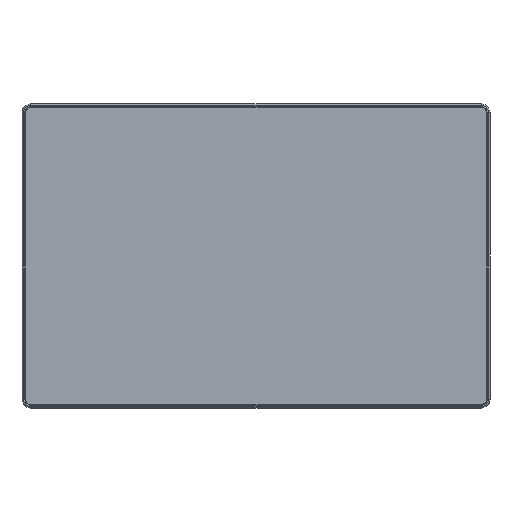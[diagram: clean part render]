
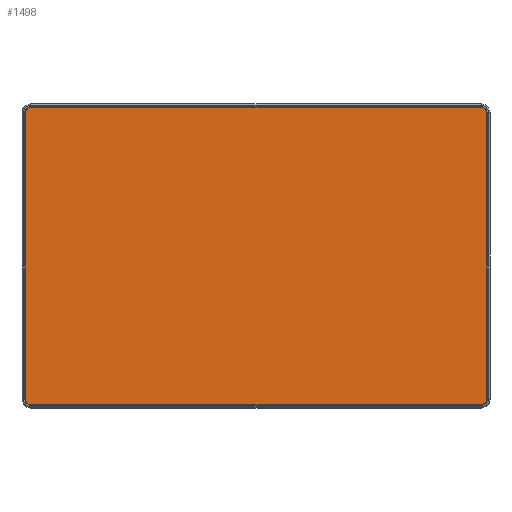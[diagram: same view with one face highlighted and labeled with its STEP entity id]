
A CAD part, top view. The second image highlights one B-rep face of the part: STEP entity #1498.
In plain terms, the highlighted planar face has unit normal (0, 0, 1).
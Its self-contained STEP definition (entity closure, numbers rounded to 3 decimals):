
#1498=ADVANCED_FACE('',(#2761),#20518,.T.);
#2761=FACE_OUTER_BOUND('',#4118,.T.);
#4118=EDGE_LOOP('',(#10608,#10609,#10610,#10611,#10612,#10613,#10614,#10615));
#10608=ORIENTED_EDGE('',*,*,#13880,.F.);
#10609=ORIENTED_EDGE('',*,*,#13877,.F.);
#10610=ORIENTED_EDGE('',*,*,#13874,.F.);
#10611=ORIENTED_EDGE('',*,*,#13871,.F.);
#10612=ORIENTED_EDGE('',*,*,#13868,.F.);
#10613=ORIENTED_EDGE('',*,*,#13865,.F.);
#10614=ORIENTED_EDGE('',*,*,#13862,.F.);
#10615=ORIENTED_EDGE('',*,*,#13858,.F.);
#13858=EDGE_CURVE('',#19241,#19242,#17116,.T.);
#13862=EDGE_CURVE('',#19242,#19245,#17120,.T.);
#13865=EDGE_CURVE('',#19245,#19247,#17123,.T.);
#13868=EDGE_CURVE('',#19247,#19249,#17126,.T.);
#13871=EDGE_CURVE('',#19249,#19251,#17129,.T.);
#13874=EDGE_CURVE('',#19251,#19253,#17132,.T.);
#13877=EDGE_CURVE('',#19253,#19255,#17135,.T.);
#13880=EDGE_CURVE('',#19255,#19241,#17138,.T.);
#17116=B_SPLINE_CURVE_WITH_KNOTS('',3,(#43110,#43111,#43112,#43113,#43114,
#43115,#43116),.UNSPECIFIED.,.F.,.F.,(4,3,4),(-1.,-0.846,-0.769),
 .UNSPECIFIED.);
#17120=B_SPLINE_CURVE_WITH_KNOTS('',3,(#43128,#43129,#43130,#43131),
 .UNSPECIFIED.,.F.,.F.,(4,4),(-0.769,-0.692),
 .UNSPECIFIED.);
#17123=B_SPLINE_CURVE_WITH_KNOTS('',3,(#43138,#43139,#43140,#43141,#43142,
#43143,#43144),.UNSPECIFIED.,.F.,.F.,(4,3,4),(-0.692,-0.615,
-0.538),.UNSPECIFIED.);
#17126=B_SPLINE_CURVE_WITH_KNOTS('',3,(#43154,#43155,#43156,#43157),
 .UNSPECIFIED.,.F.,.F.,(4,4),(-0.538,-0.462),
 .UNSPECIFIED.);
#17129=B_SPLINE_CURVE_WITH_KNOTS('',3,(#43164,#43165,#43166,#43167,#43168,
#43169,#43170),.UNSPECIFIED.,.F.,.F.,(4,3,4),(-0.462,-0.385,
-0.308),.UNSPECIFIED.);
#17132=B_SPLINE_CURVE_WITH_KNOTS('',3,(#43180,#43181,#43182,#43183),
 .UNSPECIFIED.,.F.,.F.,(4,4),(-0.308,-0.231),
 .UNSPECIFIED.);
#17135=B_SPLINE_CURVE_WITH_KNOTS('',3,(#43190,#43191,#43192,#43193,#43194,
#43195,#43196),.UNSPECIFIED.,.F.,.F.,(4,3,4),(-0.231,-0.154,
-0.077),.UNSPECIFIED.);
#17138=B_SPLINE_CURVE_WITH_KNOTS('',3,(#43206,#43207,#43208,#43209),
 .UNSPECIFIED.,.F.,.F.,(4,4),(-0.077,0.),.UNSPECIFIED.);
#19241=VERTEX_POINT('',#43094);
#19242=VERTEX_POINT('',#43095);
#19245=VERTEX_POINT('',#43098);
#19247=VERTEX_POINT('',#43100);
#19249=VERTEX_POINT('',#43102);
#19251=VERTEX_POINT('',#43104);
#19253=VERTEX_POINT('',#43106);
#19255=VERTEX_POINT('',#43108);
#20518=PLANE('',#21434);
#21434=AXIS2_PLACEMENT_3D('',#43092,#22318,$);
#22318=DIRECTION('',(0.,0.,1.));
#43092=CARTESIAN_POINT('',(299.007,-150.661,5.48));
#43094=CARTESIAN_POINT('',(-137.718,126.214,5.48));
#43095=CARTESIAN_POINT('',(-133.118,130.814,5.48));
#43098=CARTESIAN_POINT('',(245.882,130.814,5.48));
#43100=CARTESIAN_POINT('',(250.482,126.214,5.48));
#43102=CARTESIAN_POINT('',(250.482,-114.786,5.48));
#43104=CARTESIAN_POINT('',(245.882,-119.386,5.48));
#43106=CARTESIAN_POINT('',(-133.118,-119.386,5.48));
#43108=CARTESIAN_POINT('',(-137.718,-114.786,5.48));
#43110=CARTESIAN_POINT('',(-137.718,126.214,5.48));
#43111=CARTESIAN_POINT('',(-137.718,127.613,5.48));
#43112=CARTESIAN_POINT('',(-137.073,128.797,5.48));
#43113=CARTESIAN_POINT('',(-135.993,129.661,5.48));
#43114=CARTESIAN_POINT('',(-135.248,130.258,5.48));
#43115=CARTESIAN_POINT('',(-134.092,130.814,5.48));
#43116=CARTESIAN_POINT('',(-133.118,130.814,5.48));
#43128=CARTESIAN_POINT('',(-133.118,130.814,5.48));
#43129=CARTESIAN_POINT('',(-6.785,130.814,5.48));
#43130=CARTESIAN_POINT('',(119.548,130.814,5.48));
#43131=CARTESIAN_POINT('',(245.882,130.814,5.48));
#43138=CARTESIAN_POINT('',(245.882,130.814,5.48));
#43139=CARTESIAN_POINT('',(247.281,130.814,5.48));
#43140=CARTESIAN_POINT('',(248.465,130.169,5.48));
#43141=CARTESIAN_POINT('',(249.328,129.089,5.48));
#43142=CARTESIAN_POINT('',(249.925,128.344,5.48));
#43143=CARTESIAN_POINT('',(250.482,127.188,5.48));
#43144=CARTESIAN_POINT('',(250.482,126.214,5.48));
#43154=CARTESIAN_POINT('',(250.482,126.214,5.48));
#43155=CARTESIAN_POINT('',(250.482,45.881,5.48));
#43156=CARTESIAN_POINT('',(250.482,-34.452,5.48));
#43157=CARTESIAN_POINT('',(250.482,-114.786,5.48));
#43164=CARTESIAN_POINT('',(250.482,-114.786,5.48));
#43165=CARTESIAN_POINT('',(250.482,-116.185,5.48));
#43166=CARTESIAN_POINT('',(249.836,-117.369,5.48));
#43167=CARTESIAN_POINT('',(248.757,-118.233,5.48));
#43168=CARTESIAN_POINT('',(248.011,-118.829,5.48));
#43169=CARTESIAN_POINT('',(246.855,-119.386,5.48));
#43170=CARTESIAN_POINT('',(245.882,-119.386,5.48));
#43180=CARTESIAN_POINT('',(245.882,-119.386,5.48));
#43181=CARTESIAN_POINT('',(119.548,-119.386,5.48));
#43182=CARTESIAN_POINT('',(-6.785,-119.386,5.48));
#43183=CARTESIAN_POINT('',(-133.118,-119.386,5.48));
#43190=CARTESIAN_POINT('',(-133.118,-119.386,5.48));
#43191=CARTESIAN_POINT('',(-134.517,-119.386,5.48));
#43192=CARTESIAN_POINT('',(-135.701,-118.741,5.48));
#43193=CARTESIAN_POINT('',(-136.565,-117.661,5.48));
#43194=CARTESIAN_POINT('',(-137.162,-116.915,5.48));
#43195=CARTESIAN_POINT('',(-137.718,-115.76,5.48));
#43196=CARTESIAN_POINT('',(-137.718,-114.786,5.48));
#43206=CARTESIAN_POINT('',(-137.718,-114.786,5.48));
#43207=CARTESIAN_POINT('',(-137.718,-34.452,5.48));
#43208=CARTESIAN_POINT('',(-137.718,45.881,5.48));
#43209=CARTESIAN_POINT('',(-137.718,126.214,5.48));
